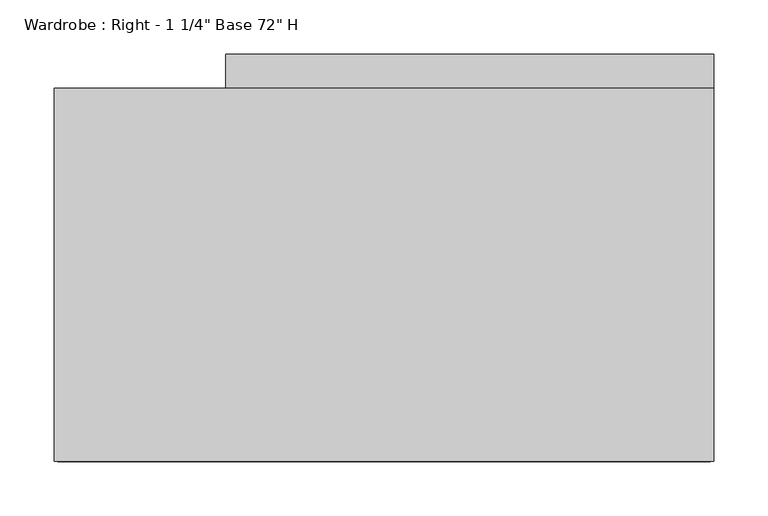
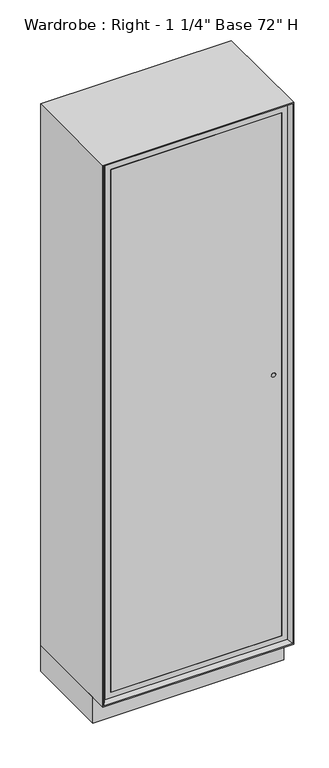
"""IFC4 building model written with IfcOpenShell, lengths in millimetres: furniture geometry."""

from ifc_helpers import new_model, si_unit, point, frame, frame_2d, origin, origin_with_axes, place, context, project, spatial, polyline, circle_curve, trimmed, segment, composite_curve, outline, extrude, faceted_brep, source, transform, mapped, element, save


def furniture_a4ef0c74(model_context):
    return source(origin(), model_context, "Body", "SolidModel", [
        extrude(outline(polyline([(1884.3625, -273.05), (119.0625, -273.05), (119.0625, 273.05), (1884.3625, 273.05), (1884.3625, -273.05)]), holes=[composite_curve([segment(trimmed(circle_curve(frame_2d((1008.0625, 247.65)), 6.35), [point((1008.0625, 254.0))], [point((1008.0625, 241.3))], True, "CARTESIAN"), True, "CONTINUOUS"), segment(trimmed(circle_curve(frame_2d((1008.0625, 247.65)), 6.35), [point((1008.0625, 241.3))], [point((1008.0625, 254.0))], True, "CARTESIAN"), True, "CONTINUOUS")], self_intersect=False)]), frame((0.0, -363.5375, 0.0), z_axis=(0.0, 1.0, 0.0), x_axis=(0.0, 0.0, 1.0)), (0.0, 0.0, 1.0), 19.05),
        extrude(outline(polyline([(1903.4125, 292.1), (1903.4125, -292.1), (100.0125, -292.1), (100.0125, 292.1), (1903.4125, 292.1)]), holes=[polyline([(1884.3625, -273.05), (1884.3625, 273.05), (119.0625, 273.05), (119.0625, -273.05), (1884.3625, -273.05)])]), frame((0.0, -363.5375, 0.0), z_axis=(0.0, 1.0, 0.0), x_axis=(0.0, 0.0, 1.0)), (0.0, 0.0, 1.0), 331.7875),
        extrude(outline(polyline([(273.05, -31.75), (273.05, -50.8), (-273.05, -50.8), (-273.05, -31.75), (273.05, -31.75)])), frame((0.0, 0.0, 119.0625), z_axis=(0.0, 0.0, 1.0), x_axis=(1.0, 0.0, 0.0)), (0.0, 0.0, 1.0), 1765.3),
        faceted_brep([(292.1, -363.5375, 1903.4125), (292.1, -31.75, 1903.4125), (292.1, -31.75, 100.0125), (292.1, -363.5375, 100.0125), (301.625, -376.2375, 1912.9375), (301.625, -376.2375, 90.4875), (304.8, -31.75, 1916.1125), (304.8, -376.2375, 1916.1125), (304.8, -376.2375, 87.3125), (304.8, -31.75, 87.3125), (-292.1, -31.75, 100.0125), (-292.1, -363.5375, 100.0125), (-301.625, -376.2375, 90.4875), (-304.8, -376.2375, 87.3125), (-304.8, -31.75, 87.3125), (-292.1, -31.75, 1903.4125), (-292.1, -363.5375, 1903.4125), (-301.625, -376.2375, 1912.9375), (-304.8, -376.2375, 1916.1125), (-304.8, -31.75, 1916.1125)], [[[0, 1, 2, 3]], [[4, 0, 3, 5]], [[6, 7, 8, 9]], [[3, 2, 10, 11]], [[5, 3, 11, 12]], [[9, 8, 13, 14]], [[11, 10, 15, 16]], [[12, 11, 16, 17]], [[14, 13, 18, 19]], [[9, 14, 19, 6], [1, 15, 10, 2]], [[16, 15, 1, 0]], [[17, 16, 0, 4]], [[7, 18, 13, 8], [5, 12, 17, 4]], [[19, 18, 7, 6]]]),
        extrude(outline(polyline([(304.8, -31.75), (304.8, -320.675), (-304.8, -320.675), (-304.8, -31.75), (304.8, -31.75)])), origin_with_axes(), (0.0, 0.0, 1.0), 87.3125),
        extrude(outline(polyline([(304.8, 0.0), (304.8, -31.75), (-146.2, -31.75), (-146.2, 0.0), (304.8, 0.0)])), origin_with_axes(), (0.0, 0.0, 1.0), 1765.3),
    ])


if __name__ == "__main__":
    model = new_model("IFC4")
    model_context = context("Model", 3, world=origin())
    ifc_project = project(units=[si_unit("LENGTHUNIT", "METRE", prefix="MILLI")], contexts=[model_context])
    site = spatial("IfcSite", under=ifc_project)
    building = spatial("IfcBuilding", under=site)
    placement = place(None, origin())
    furniture_shape = furniture_a4ef0c74(model_context)
    element("IfcFurniture", 1, ObjectType="Wardrobe : Right - 1 1/4\" Base 72\" H", at=placement, inside=building, context=model_context, shape_type="MappedRepresentation", body=[
        mapped(furniture_shape, transform((0.0, 0.0, 0.0), x_axis=(1.0, 0.0, 0.0), y_axis=(0.0, 1.0, 0.0), z_axis=(0.0, 0.0, 1.0))),
    ])
    save(model, "model.ifc")
